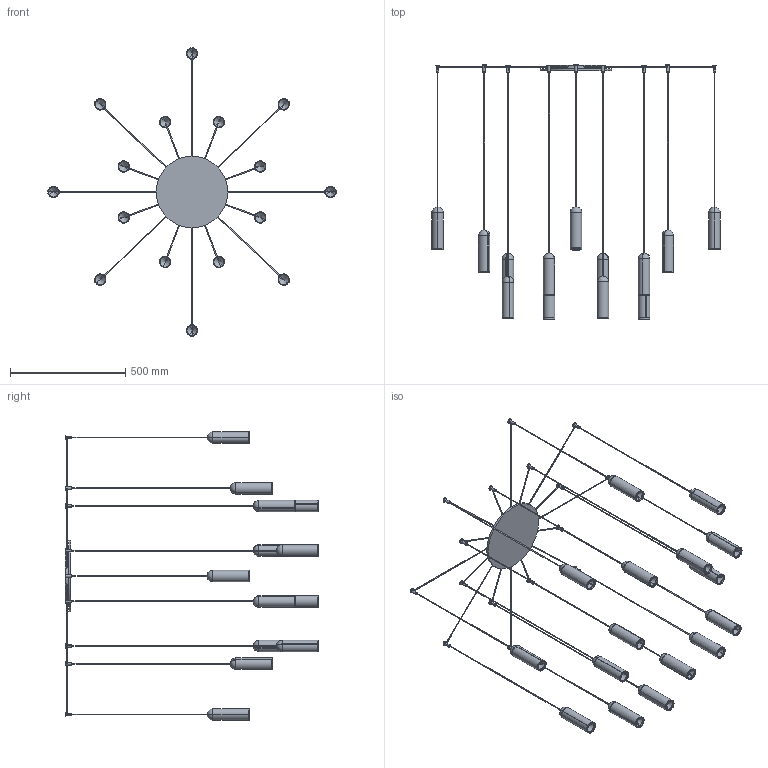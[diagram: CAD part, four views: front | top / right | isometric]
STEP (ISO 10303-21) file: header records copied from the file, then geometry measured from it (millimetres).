
FILE_DESCRIPTION (( 'STEP AP203' ), '1' );
FILE_NAME ('NANC1-00-NANUM 16 C ROSONE CENTRALE.STEP', '2024-07-31T07:27:41', ( '' ), ( '' ), 'SwSTEP 2.0', 'SolidWorks 2022', '' );
FILE_SCHEMA (( 'CONFIG_CONTROL_DESIGN' ));
Length unit declared in the file: millimetre
Products named in the file (6): NANUM_LAMPADA SINGOLA_H=1900; NANUM_LAMPADA SINGOLA_H=2200; NANC1-00-NANUM 16 C ROSONE CENTRALE; NANUM_LAMPADA SINGOLA_H=2000; NANUM_Rosone diam.310_16C<A macchina>; NANUM_LAMPADA SINGOLA_H=2100
Assembly tree (17 placements, depth 2):
  NANC1-00-NANUM 16 C ROSONE CENTRALE
    NANUM_Rosone diam.310_16C<A macchina>
    NANUM_LAMPADA SINGOLA_H=2200  x4
    NANUM_LAMPADA SINGOLA_H=2000  x4
    NANUM_LAMPADA SINGOLA_H=2100  x4
    NANUM_LAMPADA SINGOLA_H=1900  x4
Bounding box: 1250 x 1100 x 1250 mm (x, y, z)
Volume: 2630220.3 mm3; surface area: 1392119.6 mm2
Topology: 48 solids, 48 shells, 604 faces, 1316 edges, 745 vertices
Faces by surface type: cylinder 329, plane 115, cone 64, sphere 64, torus 32
Entity records: 6606 total; most frequent: CARTESIAN_POINT 1356, DIRECTION 991, ORIENTED_EDGE 808, AXIS2_PLACEMENT_3D 432, EDGE_CURVE 404, VERTEX_POINT 249, EDGE_LOOP 237, FACE_OUTER_BOUND 220
